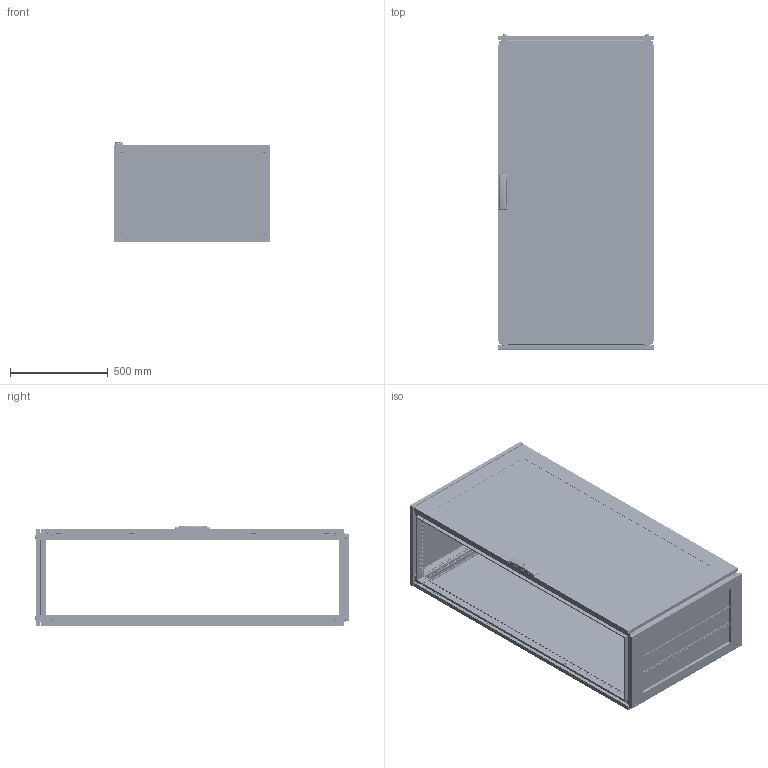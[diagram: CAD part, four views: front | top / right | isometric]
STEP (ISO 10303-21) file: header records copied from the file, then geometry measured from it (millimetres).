
FILE_DESCRIPTION (( 'STEP AP203' ), '1' );
FILE_NAME ('R5CQEN1685AX.STEP', '2025-05-07T11:50:47', ( '' ), ( '' ), 'SwSTEP 2.0', 'SolidWorks 2022', '' );
FILE_SCHEMA (( 'CONFIG_CONTROL_DESIGN' ));
Length unit declared in the file: millimetre
Products named in the file (65): PF 7,5x15 CPE simple_1600x0800; Square cap 20x20 simple; RB.2680.00.00.0 СБ simple; RB.2702.00.00.0 simple; TPA.08.0083.00.00.0 simple; 4,0x16 F Torx Zinc (ART 88200)_thread; Pressing stud FH-M6-12_M6x12mm; RB.2528.00.00.0 simple_-03; M6x10 DIN 7500 E HX cl.5.8 Zinc_straight; RB.0528.00.01.0 simple_-03; R5NCPTE - Assem simple_R5NCPTE1680; Glass CPTE_1600x0800; AC00C446-R; RB.1957.00.00.0 simple_-10; ATOS Traction guide ILY03.35; RB.1867.01.01.0 simple_-40; Glue CPTE simple_1600x0800; RB.2755.00.00.0 СБ simple_-19; RB.2696.00.00.0 simple; M6 MGR-MKO-0625 simple_Thread; RB.0054.01.01.0 simple_-12; RB.1633.00.02.0 simple_-01; M12x16 ISO 7380-1 HX cl.4,8 Zinc_straight; RB.2680.00.01.0 simple; RB.2052.00.00.0 СБ simple_-12; M8x12 AC00C476 cl.8,8 Zinc_stright; RB.2968.00.00.0 simple; TPA.08.0139.00.03.0; PF 5x10 KTB simple_800х500; M6x10 DIN 912 HX cl.8,8 Zinc_straight; RB.2969.00.00.0 СБ simple; RB.0528.04.01.0 simple; M6x15 Erickson cl.4,8 Zinc; RB.0562.00.00.0 СБ simple_-10; RB.1867.01.00.0 СБ simple_-57; M6x10 DIN 7500 M Torx cl.5.8 Zinc_straight; RB.2052.01.00.0 СБ simple_-12; R5NCRE-Assem simple_R5NCRE1680; RB.2456.00.00.0 simple_-01; TPA.08.0084.00.00.0 simple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
Assembly tree (173 placements, depth 5):
  R5CQEN1685AX
    R5NCPTE - Assem simple_R5NCPTE1680
      RB.0562.00.00.0 СБ simple_-10
        RB.0562.01.00.0 СБ simple_-10
          RB.0562.01.01.0 simple_-10
          М6х12 A5100231_straight  x7
          RB.2702.00.00.0 simple  x4
          PF 7,5x15 CPE simple_1600x0800
          Glass CPTE_1600x0800
          Glue CPTE simple_1600x0800
        Square cap 20x20 simple  x2
        M6x15 Erickson cl.4,8 Zinc  x2
        RB.0528.00.01.0 simple_-03  x2
        ATOS Traction guide ILY03.35  x4
        RB.2357.00.00.0 simple_-05
        RB.2680.00.00.0 СБ simple
          TPA.08.0139.00.01.0 simple
          RB.2680.00.01.0 simple
          RB.2680.00.02.0 simple  x2
        TPA.08.0139.00.03.0  x2
        M6 DIN 985 cl.6,0 Zinc_straight  x4
        4,0x16 F Torx Zinc (ART 88200)_thread  x2
        RB.0528.04.00.0 СБ simple  x2
          RB.0528.04.01.0 simple
          Pressing stud FH-M6-12_M6x12mm
      M6x10 DIN 912 HX cl.8,8 Zinc_straight  x8
      4.8x13 DIN 7981 PH Zinc_straight
      7 DIN 6799 Zinc simple  x4
      RB.2968.00.00.0 simple  x4
      RB.2969.00.00.0 СБ simple  x4
        RB.2969.00.01.0 simple
        Pin 4x16 DIN 7 AISI 303 (A1) simple
        M6 MGR-MKO-0625 simple_Thread
      AC00C446-R
      RB.2696.00.00.0 simple  x4
      7 DIN 6799 Zinc  x4
    R5NCRE-Assem simple_R5NCRE1680
      RB.2052.00.00.0 СБ simple_-12
        RB.2052.01.00.0 СБ simple_-12
          RB.0054.01.01.0 simple_-12
          М6х12 A5100231_straight  x4
        PF 7x14 CRE simple_1600x0800
      RB.2172.00.00.1 simple  x8
      M6x10 DIN 7500 E HX cl.5.8 Zinc_straight  x8
      M6x10 DIN 7500 M Torx cl.5.8 Zinc_straight  x8
    R5NKMN - Assem simple_R5NKMN16 (800х500)
      RB.2528.00.00.0 simple_-03  x4
    R5NKTB - Assem simple_H=1600 R5NKTB85
      RB.2499.00.00.0 СБ simple_-19
        RB.2499.01.00.0 СБ simple_-18
          RB.1633.00.01.0 simple_-03  x2
          RB.1633.00.02.0 simple_-01  x2
          PF 5x10 KTB simple_800х500
        RB.2457.00.00.0 СБ simple_-19
          RB.2455.00.00.0 simple_-03  x2
          RB.2456.00.00.0 simple_-01  x2
          TPA.08.0084.00.00.0 simple  x2
          TPA.08.0083.00.00.0 simple  x2
          M8x12 AC00C476 cl.8,8 Zinc_stright  x4
        RB.1957.00.00.0 simple_-10  x3
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Bounding box: 800 x 1613.3 x 514.74 mm (x, y, z)
Volume: 14977019.5 mm3; surface area: 12999289.7 mm2
Topology: 174 solids, 192 shells, 20705 faces, 58539 edges, 38507 vertices
Faces by surface type: plane 11611, cylinder 7553, cone 704, bspline 435, torus 368, sphere 34
Entity records: 209233 total; most frequent: CARTESIAN_POINT 52739, ORIENTED_EDGE 30914, DIRECTION 29403, EDGE_CURVE 15483, VERTEX_POINT 10242, AXIS2_PLACEMENT_3D 9881, LINE 9641, VECTOR 9641
